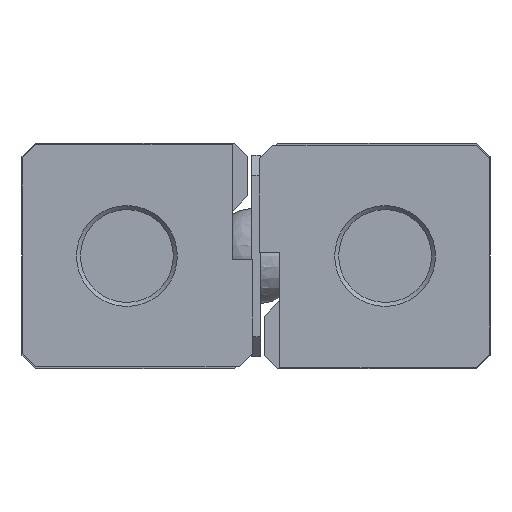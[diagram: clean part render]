
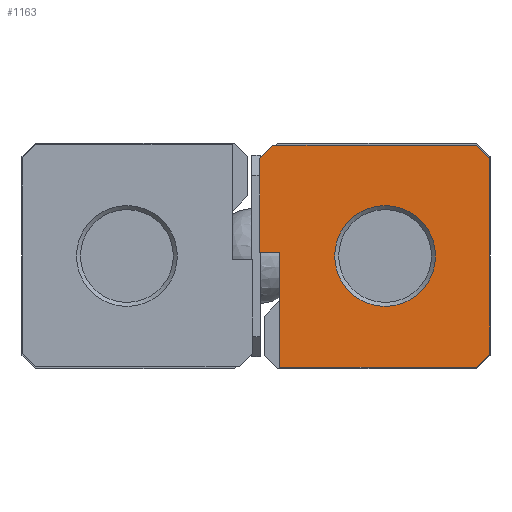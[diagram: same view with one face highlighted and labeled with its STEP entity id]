
A CAD part, left-side view. The second image highlights one B-rep face of the part: STEP entity #1163.
In plain terms, the highlighted planar face has unit normal (-1, 0, 0).
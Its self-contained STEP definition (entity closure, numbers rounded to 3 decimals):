
#62=CIRCLE('',#1267,6.25);
#217=ORIENTED_EDGE('',*,*,#462,.T.);
#218=ORIENTED_EDGE('',*,*,#444,.F.);
#219=ORIENTED_EDGE('',*,*,#461,.F.);
#220=ORIENTED_EDGE('',*,*,#459,.F.);
#221=ORIENTED_EDGE('',*,*,#457,.F.);
#222=ORIENTED_EDGE('',*,*,#455,.F.);
#223=ORIENTED_EDGE('',*,*,#453,.F.);
#224=ORIENTED_EDGE('',*,*,#451,.F.);
#225=ORIENTED_EDGE('',*,*,#449,.F.);
#226=ORIENTED_EDGE('',*,*,#447,.F.);
#444=EDGE_CURVE('',#579,#580,#697,.T.);
#447=EDGE_CURVE('',#580,#581,#700,.T.);
#449=EDGE_CURVE('',#581,#582,#702,.T.);
#451=EDGE_CURVE('',#582,#583,#704,.T.);
#453=EDGE_CURVE('',#583,#584,#706,.T.);
#455=EDGE_CURVE('',#584,#585,#708,.T.);
#457=EDGE_CURVE('',#585,#586,#710,.T.);
#459=EDGE_CURVE('',#586,#587,#712,.T.);
#461=EDGE_CURVE('',#587,#579,#714,.T.);
#462=EDGE_CURVE('',#588,#588,#62,.T.);
#579=VERTEX_POINT('',#1797);
#580=VERTEX_POINT('',#1798);
#581=VERTEX_POINT('',#1803);
#582=VERTEX_POINT('',#1807);
#583=VERTEX_POINT('',#1811);
#584=VERTEX_POINT('',#1815);
#585=VERTEX_POINT('',#1819);
#586=VERTEX_POINT('',#1823);
#587=VERTEX_POINT('',#1827);
#588=VERTEX_POINT('',#1833);
#697=LINE('',#1796,#816);
#700=LINE('',#1802,#819);
#702=LINE('',#1806,#821);
#704=LINE('',#1810,#823);
#706=LINE('',#1814,#825);
#708=LINE('',#1818,#827);
#710=LINE('',#1822,#829);
#712=LINE('',#1826,#831);
#714=LINE('',#1830,#833);
#816=VECTOR('',#1439,1000.);
#819=VECTOR('',#1444,1000.);
#821=VECTOR('',#1448,1000.);
#823=VECTOR('',#1452,1000.);
#825=VECTOR('',#1456,1000.);
#827=VECTOR('',#1460,1000.);
#829=VECTOR('',#1464,1000.);
#831=VECTOR('',#1468,1000.);
#833=VECTOR('',#1472,1000.);
#908=EDGE_LOOP('',(#217));
#909=EDGE_LOOP('',(#218,#219,#220,#221,#222,#223,#224,#225,#226));
#1013=FACE_BOUND('',#908,.T.);
#1014=FACE_BOUND('',#909,.T.);
#1114=PLANE('',#1266);
#1163=ADVANCED_FACE('',(#1013,#1014),#1114,.F.);
#1266=AXIS2_PLACEMENT_3D('',#1831,#1473,#1474);
#1267=AXIS2_PLACEMENT_3D('',#1832,#1475,#1476);
#1439=DIRECTION('',(0.,-1.,0.));
#1444=DIRECTION('',(0.,-0.707,-0.707));
#1448=DIRECTION('',(0.,0.,-1.));
#1452=DIRECTION('',(0.,0.707,-0.707));
#1456=DIRECTION('',(0.,1.,0.));
#1460=DIRECTION('',(0.,0.,1.));
#1464=DIRECTION('',(0.,1.,0.));
#1468=DIRECTION('',(0.,0.,1.));
#1472=DIRECTION('',(0.,-0.707,0.707));
#1473=DIRECTION('',(1.,0.,0.));
#1474=DIRECTION('',(0.,0.,-1.));
#1475=DIRECTION('',(1.,0.,0.));
#1476=DIRECTION('',(0.,0.,-1.));
#1796=CARTESIAN_POINT('',(0.,-2.1,13.7));
#1797=CARTESIAN_POINT('',(0.,-2.1,13.7));
#1798=CARTESIAN_POINT('',(0.,-27.3,13.7));
#1802=CARTESIAN_POINT('',(0.,-27.3,13.7));
#1803=CARTESIAN_POINT('',(0.,-28.95,12.05));
#1806=CARTESIAN_POINT('',(0.,-28.95,12.05));
#1807=CARTESIAN_POINT('',(0.,-28.95,-12.15));
#1810=CARTESIAN_POINT('',(0.,-28.95,-12.15));
#1811=CARTESIAN_POINT('',(0.,-27.3,-13.8));
#1814=CARTESIAN_POINT('',(0.,-27.3,-13.8));
#1815=CARTESIAN_POINT('',(0.,-2.95,-13.8));
#1818=CARTESIAN_POINT('',(0.,-2.95,-13.8));
#1819=CARTESIAN_POINT('',(0.,-2.95,0.45));
#1822=CARTESIAN_POINT('',(0.,-2.95,0.45));
#1823=CARTESIAN_POINT('',(0.,-0.45,0.45));
#1826=CARTESIAN_POINT('',(0.,-0.45,0.45));
#1827=CARTESIAN_POINT('',(0.,-0.45,12.05));
#1830=CARTESIAN_POINT('',(0.,-0.45,12.05));
#1831=CARTESIAN_POINT('',(0.,0.,0.));
#1832=CARTESIAN_POINT('',(0.,-16.,0.));
#1833=CARTESIAN_POINT('',(0.,-16.,-6.25));
